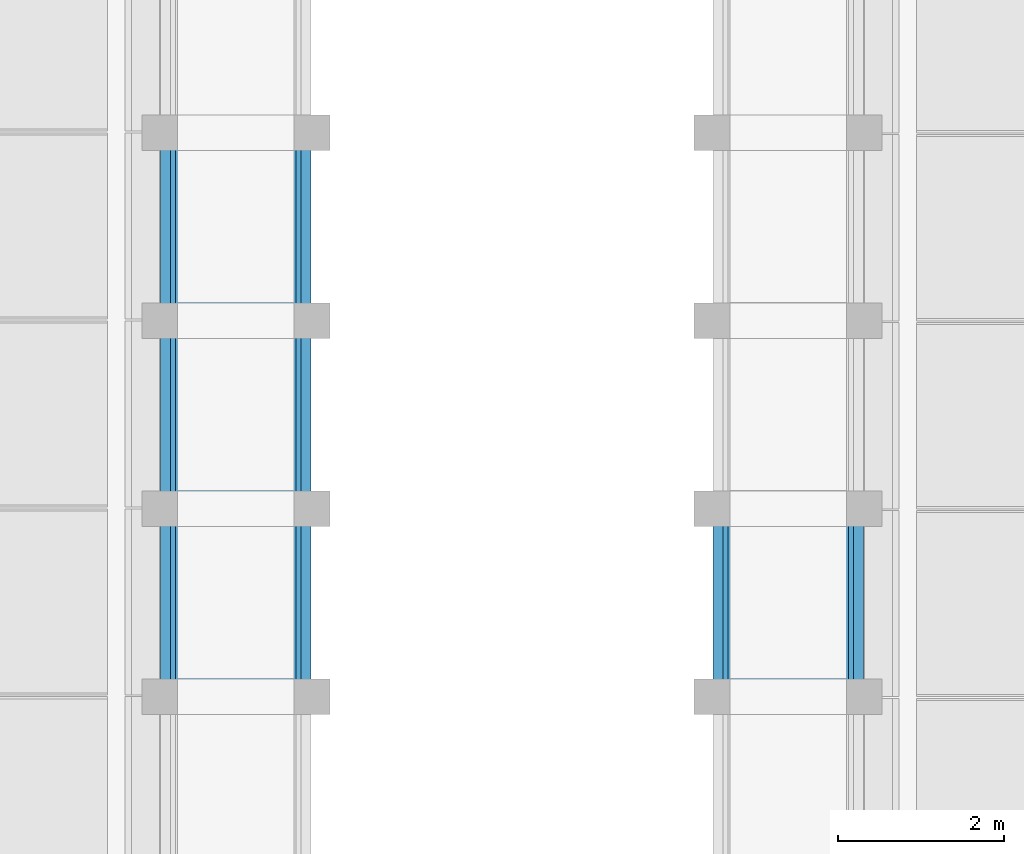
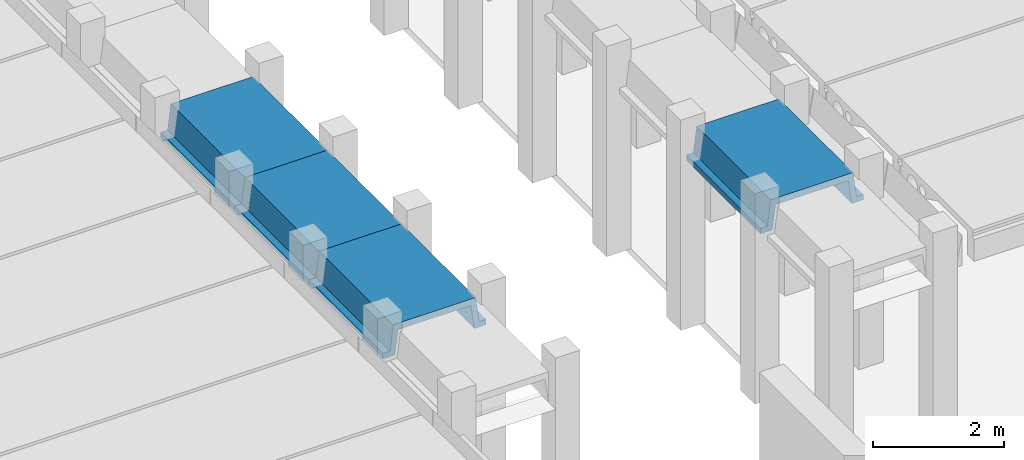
# One storey, part 8 of 21: 4 beams.
"""IFC2X3 building model written with IfcOpenShell, lengths in millimetres."""

from ifc_helpers import new_model, entity, si_unit, converted_unit, derived_unit, direction, frame, origin, place, context, subcontext, project, spatial, polyline, outline, extrude, material, type_object, element, save


model = new_model("IFC2X3")

# Units and contexts
model_context = context("Model", 3, precision=0.01, world=origin(), true_north=direction((6.12303176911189e-17, 1.0)))
body_context = subcontext(model_context, "Body", "Model", "MODEL_VIEW")
ifc_project = project(units=[si_unit("LENGTHUNIT", "METRE", prefix="MILLI"), si_unit("AREAUNIT", "SQUARE_METRE"), si_unit("VOLUMEUNIT", "CUBIC_METRE"), converted_unit("PLANEANGLEUNIT", "DEGREE", entity("IfcRatioMeasure", 0.0174532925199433), si_unit("PLANEANGLEUNIT", "RADIAN"), dimensions=[0, 0, 0, 0, 0, 0, 0]), si_unit("MASSUNIT", "GRAM", prefix="KILO"), derived_unit("MASSDENSITYUNIT", [(si_unit("MASSUNIT", "GRAM", prefix="KILO"), 1), (si_unit("LENGTHUNIT", "METRE"), -3)]), derived_unit("MOMENTOFINERTIAUNIT", [(si_unit("LENGTHUNIT", "METRE"), 4)]), si_unit("TIMEUNIT", "SECOND"), si_unit("FREQUENCYUNIT", "HERTZ"), si_unit("THERMODYNAMICTEMPERATUREUNIT", "DEGREE_CELSIUS"), derived_unit("THERMALTRANSMITTANCEUNIT", [(si_unit("MASSUNIT", "GRAM", prefix="KILO"), 1), (si_unit("THERMODYNAMICTEMPERATUREUNIT", "KELVIN"), -1), (si_unit("TIMEUNIT", "SECOND"), -3)]), derived_unit("VOLUMETRICFLOWRATEUNIT", [(si_unit("LENGTHUNIT", "METRE"), 3), (si_unit("TIMEUNIT", "SECOND"), -1)]), si_unit("ELECTRICCURRENTUNIT", "AMPERE"), si_unit("ELECTRICVOLTAGEUNIT", "VOLT"), si_unit("POWERUNIT", "WATT"), si_unit("FORCEUNIT", "NEWTON", prefix="KILO"), si_unit("ILLUMINANCEUNIT", "LUX"), si_unit("LUMINOUSFLUXUNIT", "LUMEN"), si_unit("LUMINOUSINTENSITYUNIT", "CANDELA"), derived_unit("USERDEFINED", [(si_unit("MASSUNIT", "GRAM", prefix="KILO"), -1), (si_unit("LENGTHUNIT", "METRE"), -2), (si_unit("TIMEUNIT", "SECOND"), 3), (si_unit("LUMINOUSFLUXUNIT", "LUMEN"), 1)]), derived_unit("LINEARVELOCITYUNIT", [(si_unit("LENGTHUNIT", "METRE"), 1), (si_unit("TIMEUNIT", "SECOND"), -1)]), si_unit("PRESSUREUNIT", "PASCAL"), derived_unit("USERDEFINED", [(si_unit("LENGTHUNIT", "METRE"), -2), (si_unit("MASSUNIT", "GRAM", prefix="KILO"), 1), (si_unit("TIMEUNIT", "SECOND"), -2)]), derived_unit("LINEARFORCEUNIT", [(si_unit("MASSUNIT", "GRAM", prefix="KILO"), 1), (si_unit("LENGTHUNIT", "METRE"), 1), (si_unit("TIMEUNIT", "SECOND"), -2), (si_unit("LENGTHUNIT", "METRE"), -1)]), derived_unit("PLANARFORCEUNIT", [(si_unit("MASSUNIT", "GRAM", prefix="KILO"), 1), (si_unit("LENGTHUNIT", "METRE"), 1), (si_unit("TIMEUNIT", "SECOND"), -2), (si_unit("LENGTHUNIT", "METRE"), -2)])], contexts=[model_context])

# Site, building, storey
site_placement = place(None, frame((10627.5135316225, 21939.0796949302, 0.0)))
site = spatial("IfcSite", under=ifc_project, at=site_placement, Name="Default", CompositionType="ELEMENT")
building_placement = place(site_placement, origin())
building = spatial("IfcBuilding", under=site, at=building_placement, CompositionType="ELEMENT")
storey_placement = place(building_placement, frame((0.0, 0.0, 7320.0)))
storey = spatial("IfcBuildingStorey", under=building, at=storey_placement, Name="R+2", CompositionType="ELEMENT", Elevation=7320.0)

# Beams
ifc_material = material(Name="Concrete, Precast Smooth, Light Grey")
beam_type = type_object("IfcBeamType", Name="Poutre petite:Poutre petite", PredefinedType="NOTDEFINED")
beam_1_placement = place(storey_placement, frame((23257.4864683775, -8379.07969493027, 3530.0), z_axis=(0.0, 0.0, 1.0), x_axis=(0.0, 1.0, 0.0)))
element("IfcBeam", 1, at=beam_1_placement, inside=storey, type_object=beam_type, material=ifc_material, Name="Poutre petite:Poutre petite", ObjectType="Poutre petite:Poutre petite", context=body_context, shape_type="SweptSolid", body=[
    extrude(outline(polyline([(103.333217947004, -905.013684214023), (203.333564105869, -905.013684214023), (203.333564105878, -700.013730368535), (-246.666782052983, -640.013684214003), (-246.666782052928, 640.013497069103), (203.333564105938, 700.0135432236), (203.333564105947, 905.014058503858), (103.333217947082, 905.014058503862), (103.333217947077, 785.013497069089), (-366.666782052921, 725.01349706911), (-366.666782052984, -725.013684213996), (103.333217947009, -785.013684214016), (103.333217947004, -905.013684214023)])), frame((0.0, -0.000187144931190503, -366.666782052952), z_axis=(1.0, 0.0, 0.0), x_axis=(0.0, 0.0, -1.0)), (0.0, 0.0, 1.0), 2260.0),
])
beam_2_placement = place(storey_placement, frame((23257.4864683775, -10639.0796949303, 3530.0), z_axis=(0.0, 0.0, 1.0), x_axis=(0.0, 1.0, 0.0)))
element("IfcBeam", 2, at=beam_2_placement, inside=storey, type_object=beam_type, material=ifc_material, Name="Poutre petite:Poutre petite", ObjectType="Poutre petite:Poutre petite", context=body_context, shape_type="SweptSolid", body=[
    extrude(outline(polyline([(103.333217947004, -905.013684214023), (203.333564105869, -905.013684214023), (203.333564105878, -700.013730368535), (-246.666782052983, -640.013684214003), (-246.666782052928, 640.013497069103), (203.333564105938, 700.0135432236), (203.333564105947, 905.014058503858), (103.333217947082, 905.014058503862), (103.333217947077, 785.013497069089), (-366.666782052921, 725.01349706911), (-366.666782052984, -725.013684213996), (103.333217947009, -785.013684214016), (103.333217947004, -905.013684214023)])), frame((0.0, -0.000187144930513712, -366.666782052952), z_axis=(1.0, 0.0, 0.0), x_axis=(0.0, 0.0, -1.0)), (0.0, 0.0, 1.0), 2260.0),
])
beam_3_placement = place(storey_placement, frame((23257.4864683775, -12899.0796949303, 3530.0), z_axis=(0.0, 0.0, 1.0), x_axis=(0.0, 1.0, 0.0)))
element("IfcBeam", 3, at=beam_3_placement, inside=storey, type_object=beam_type, material=ifc_material, Name="Poutre petite:Poutre petite", ObjectType="Poutre petite:Poutre petite", context=body_context, shape_type="SweptSolid", body=[
    extrude(outline(polyline([(103.333217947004, -905.013684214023), (203.333564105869, -905.013684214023), (203.333564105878, -700.013730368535), (-246.666782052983, -640.013684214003), (-246.666782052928, 640.013497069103), (203.333564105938, 700.0135432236), (203.333564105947, 905.014058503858), (103.333217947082, 905.014058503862), (103.333217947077, 785.013497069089), (-366.666782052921, 725.01349706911), (-366.666782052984, -725.013684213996), (103.333217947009, -785.013684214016), (103.333217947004, -905.013684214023)])), frame((0.0, -0.00018714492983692, -366.666782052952), z_axis=(1.0, 0.0, 0.0), x_axis=(0.0, 0.0, -1.0)), (0.0, 0.0, 1.0), 2260.0),
])
beam_4_placement = place(storey_placement, frame((29897.4864683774, -12899.0796949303, 3530.0), z_axis=(0.0, 0.0, 1.0), x_axis=(0.0, 1.0, 0.0)))
element("IfcBeam", 4, at=beam_4_placement, inside=storey, type_object=beam_type, material=ifc_material, Name="Poutre petite:Poutre petite", ObjectType="Poutre petite:Poutre petite", context=body_context, shape_type="SweptSolid", body=[
    extrude(outline(polyline([(103.333217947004, -905.014058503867), (203.333564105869, -905.014058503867), (203.333564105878, -700.013543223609), (-246.666782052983, -640.013497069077), (-246.666782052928, 640.013684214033), (203.333564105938, 700.013730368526), (203.333564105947, 905.01368421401), (103.333217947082, 905.013684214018), (103.333217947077, 785.013684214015), (-366.666782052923, 725.013684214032), (-366.666782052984, -725.01349706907), (103.333217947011, -785.013497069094), (103.333217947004, -905.014058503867)])), frame((0.0, 0.000187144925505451, -366.666782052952), z_axis=(1.0, 0.0, 0.0), x_axis=(0.0, 0.0, -1.0)), (0.0, 0.0, 1.0), 2260.0),
])

save(model, "model.ifc")
